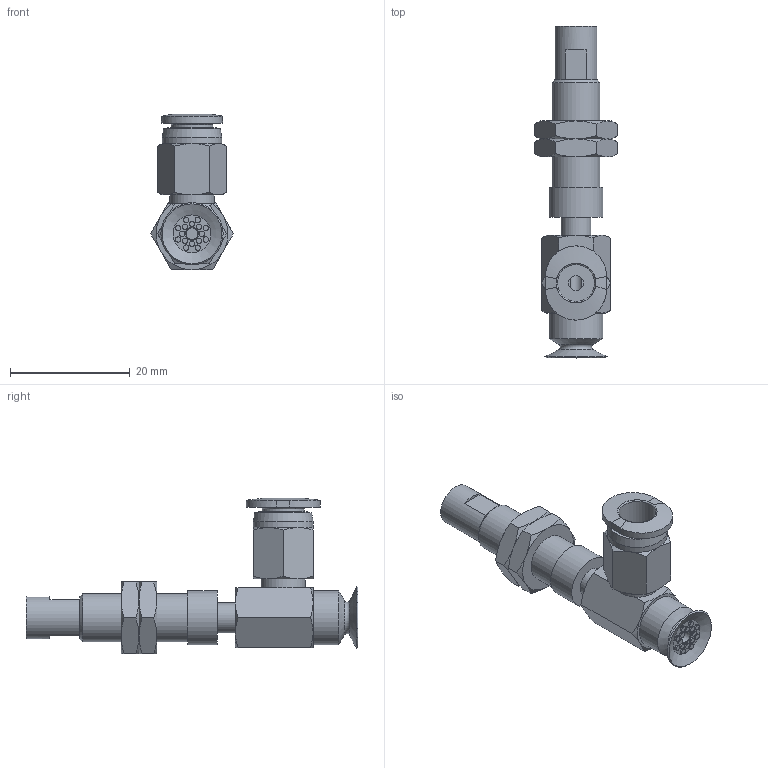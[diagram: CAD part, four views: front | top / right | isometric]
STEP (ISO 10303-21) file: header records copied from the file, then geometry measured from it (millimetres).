
FILE_DESCRIPTION(('STEP AP203'),'1');
FILE_NAME('-O.stp','2025-02-11T05:47:45',(' '),(' '),'Spatial InterOp 3D',' ',' ');
FILE_SCHEMA(('CONFIG_CONTROL_DESIGN'));
Length unit declared in the file: millimetre
Products named in the file (7): BNABPAYS-10A-3-※-O; NAPAYS-10A-3--M; NAPAYS-10A-3--F; Nut-10A-S; CONNECTOR-10A-3-PA; BPAG-10A-※_3D; PC-C_06-M5
Assembly tree (7 placements, depth 2):
  BNABPAYS-10A-3-※-O
    NAPAYS-10A-3--M
    NAPAYS-10A-3--F
    Nut-10A-S  x2
    CONNECTOR-10A-3-PA
    BPAG-10A-※_3D
    PC-C_06-M5
Bounding box: 13.86 x 55.5 x 25.98 mm (x, y, z)
Volume: 3380.4 mm3; surface area: 5175.2 mm2
Topology: 6 solids, 9 shells, 212 faces, 420 edges, 256 vertices
Faces by surface type: plane 84, cone 67, cylinder 42, torus 12, bspline 4, revolution 3
Full cylindrical faces by diameter (mm): 0.9 x16, 2 x2, 4 x4, 4.134 x2, 5 x4, 6 x2, 7 x2, 7.188 x2, 7.4 x1, 8 x1, 8.2 x1, 9 x2, 10 x1
Entity records: 5260 total; most frequent: CARTESIAN_POINT 1408, DIRECTION 745, ORIENTED_EDGE 586, AXIS2_PLACEMENT_3D 342, EDGE_LOOP 300, EDGE_CURVE 295, VERTEX_POINT 219, FACE_OUTER_BOUND 180
